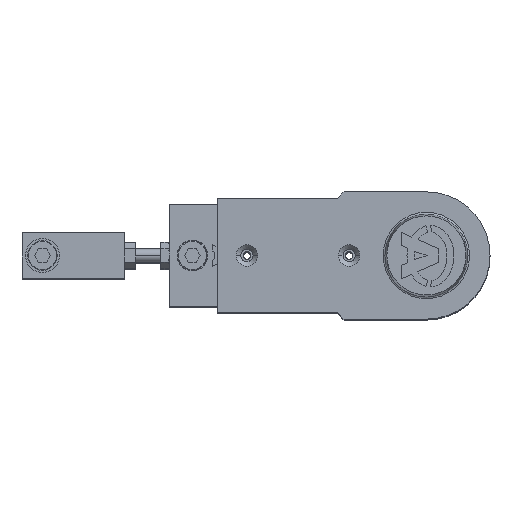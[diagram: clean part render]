
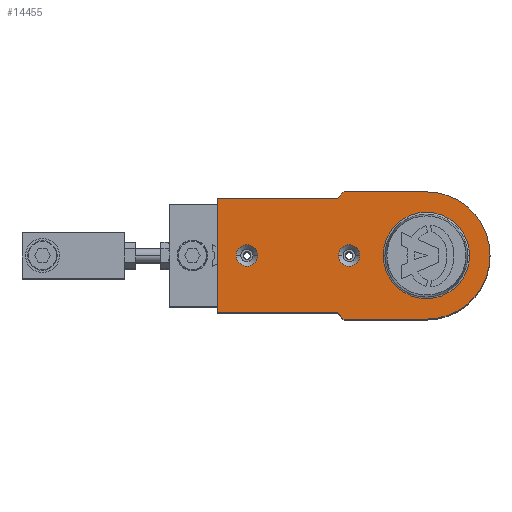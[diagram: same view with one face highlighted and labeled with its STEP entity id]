
A CAD part, top view. The second image highlights one B-rep face of the part: STEP entity #14455.
In plain terms, the highlighted planar face has unit normal (0, 0, 1).
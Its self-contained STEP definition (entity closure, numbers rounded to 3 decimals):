
#49 = EDGE_CURVE ( 'NONE', #13234, #2147, #8623, .T. ) ;
#344 = DIRECTION ( 'NONE',  ( 0., 0., 1. ) ) ;
#418 = CARTESIAN_POINT ( 'NONE',  ( 18.996, 0., 37. ) ) ;
#620 = CIRCLE ( 'NONE', #8351, 4.7 ) ;
#680 = CARTESIAN_POINT ( 'NONE',  ( 36.25, -28., 37. ) ) ;
#1122 = EDGE_CURVE ( 'NONE', #7246, #7499, #9316, .T. ) ;
#1144 = EDGE_CURVE ( 'NONE', #3367, #11006, #10732, .T. ) ;
#1190 = CARTESIAN_POINT ( 'NONE',  ( 0., -28., 37. ) ) ;
#1344 = CARTESIAN_POINT ( 'NONE',  ( 34., 0., 37. ) ) ;
#1523 = CARTESIAN_POINT ( 'NONE',  ( 36.25, -28., 37. ) ) ;
#1532 = EDGE_CURVE ( 'NONE', #9165, #14173, #13350, .T. ) ;
#1966 = CARTESIAN_POINT ( 'NONE',  ( 39., 25.25, 37. ) ) ;
#2147 = VERTEX_POINT ( 'NONE', #11191 ) ;
#2322 = EDGE_CURVE ( 'NONE', #10724, #10461, #4852, .T. ) ;
#2416 = EDGE_CURVE ( 'NONE', #7499, #11318, #9833, .T. ) ;
#2421 = DIRECTION ( 'NONE',  ( 1., 0., 0. ) ) ;
#2723 = CARTESIAN_POINT ( 'NONE',  ( 38.7, 0., 37. ) ) ;
#3316 = DIRECTION ( 'NONE',  ( 0., 0., 1. ) ) ;
#3367 = VERTEX_POINT ( 'NONE', #1190 ) ;
#3583 = CARTESIAN_POINT ( 'NONE',  ( 0., 28., 37. ) ) ;
#3642 = CARTESIAN_POINT ( 'NONE',  ( 0., -28., 37. ) ) ;
#3651 = DIRECTION ( 'NONE',  ( 0., 0., -1. ) ) ;
#3806 = EDGE_CURVE ( 'NONE', #11318, #9165, #8999, .T. ) ;
#3957 = CARTESIAN_POINT ( 'NONE',  ( 79., 0., 37. ) ) ;
#4009 = VECTOR ( 'NONE', #11042, 1000. ) ;
#4171 = CARTESIAN_POINT ( 'NONE',  ( 92., 25.25, 37. ) ) ;
#4197 = CARTESIAN_POINT ( 'NONE',  ( -28., 0., 37. ) ) ;
#4336 = CARTESIAN_POINT ( 'NONE',  ( 0., 0., 37. ) ) ;
#4462 = EDGE_CURVE ( 'NONE', #14173, #3367, #9151, .T. ) ;
#4511 = CIRCLE ( 'NONE', #13421, 18.996 ) ;
#4616 = ORIENTED_EDGE ( 'NONE', *, *, #8360, .T. ) ;
#4630 = DIRECTION ( 'NONE',  ( -1., 0., 0. ) ) ;
#4650 = ORIENTED_EDGE ( 'NONE', *, *, #12820, .F. ) ;
#4746 = CARTESIAN_POINT ( 'NONE',  ( 0., 0., 37. ) ) ;
#4852 = CIRCLE ( 'NONE', #8645, 4.7 ) ;
#4871 = DIRECTION ( 'NONE',  ( 0., 0., 1. ) ) ;
#4978 = DIRECTION ( 'NONE',  ( 0., 1., 0. ) ) ;
#6060 = ORIENTED_EDGE ( 'NONE', *, *, #7978, .T. ) ;
#6152 = VERTEX_POINT ( 'NONE', #6197 ) ;
#6197 = CARTESIAN_POINT ( 'NONE',  ( -18.996, 0., 37. ) ) ;
#6277 = DIRECTION ( 'NONE',  ( 1., 0., 0. ) ) ;
#6292 = ORIENTED_EDGE ( 'NONE', *, *, #3806, .T. ) ;
#6314 = VECTOR ( 'NONE', #4978, 1000. ) ;
#6630 = ORIENTED_EDGE ( 'NONE', *, *, #1122, .T. ) ;
#6664 = CARTESIAN_POINT ( 'NONE',  ( 0., 28., 37. ) ) ;
#6787 = ORIENTED_EDGE ( 'NONE', *, *, #2416, .T. ) ;
#6845 = ORIENTED_EDGE ( 'NONE', *, *, #4462, .T. ) ;
#6885 = EDGE_LOOP ( 'NONE', ( #4650, #11424 ) ) ;
#6949 = CARTESIAN_POINT ( 'NONE',  ( 74.3, 0., 37. ) ) ;
#6963 = DIRECTION ( 'NONE',  ( 1., 0., 0. ) ) ;
#7067 = DIRECTION ( 'NONE',  ( 1., 0., 0. ) ) ;
#7143 = DIRECTION ( 'NONE',  ( 0., 0., 1. ) ) ;
#7187 = CARTESIAN_POINT ( 'NONE',  ( 79., 0., 37. ) ) ;
#7246 = VERTEX_POINT ( 'NONE', #4171 ) ;
#7292 = CARTESIAN_POINT ( 'NONE',  ( 36.25, 28., 37. ) ) ;
#7335 = FACE_BOUND ( 'NONE', #6885, .T. ) ;
#7498 = LINE ( 'NONE', #1523, #8738 ) ;
#7499 = VERTEX_POINT ( 'NONE', #13722 ) ;
#7561 = DIRECTION ( 'NONE',  ( 0., 0., 1. ) ) ;
#7609 = DIRECTION ( 'NONE',  ( 1., 0., 0. ) ) ;
#7717 = VECTOR ( 'NONE', #9342, 1000. ) ;
#7830 = ORIENTED_EDGE ( 'NONE', *, *, #1532, .T. ) ;
#7978 = EDGE_CURVE ( 'NONE', #9906, #6152, #13662, .T. ) ;
#8246 = LINE ( 'NONE', #10568, #6314 ) ;
#8351 = AXIS2_PLACEMENT_3D ( 'NONE', #1344, #4871, #7067 ) ;
#8360 = EDGE_CURVE ( 'NONE', #11006, #13234, #7498, .T. ) ;
#8478 = AXIS2_PLACEMENT_3D ( 'NONE', #3957, #12879, #6277 ) ;
#8623 = LINE ( 'NONE', #12878, #10195 ) ;
#8645 = AXIS2_PLACEMENT_3D ( 'NONE', #7187, #10389, #9261 ) ;
#8670 = ORIENTED_EDGE ( 'NONE', *, *, #8971, .F. ) ;
#8738 = VECTOR ( 'NONE', #9575, 1000. ) ;
#8971 = EDGE_CURVE ( 'NONE', #10461, #10724, #11004, .T. ) ;
#8999 = LINE ( 'NONE', #6664, #12344 ) ;
#9042 = AXIS2_PLACEMENT_3D ( 'NONE', #4746, #7143, #11675 ) ;
#9151 = CIRCLE ( 'NONE', #9042, 28. ) ;
#9165 = VERTEX_POINT ( 'NONE', #3583 ) ;
#9261 = DIRECTION ( 'NONE',  ( 1., 0., 0. ) ) ;
#9316 = LINE ( 'NONE', #1966, #4009 ) ;
#9329 = CARTESIAN_POINT ( 'NONE',  ( 0., 0., 37. ) ) ;
#9342 = DIRECTION ( 'NONE',  ( 1., 0., 0. ) ) ;
#9413 = ORIENTED_EDGE ( 'NONE', *, *, #13753, .T. ) ;
#9512 = ORIENTED_EDGE ( 'NONE', *, *, #12801, .T. ) ;
#9575 = DIRECTION ( 'NONE',  ( 0.707, 0.707, 0. ) ) ;
#9611 = AXIS2_PLACEMENT_3D ( 'NONE', #9329, #344, #6963 ) ;
#9833 = LINE ( 'NONE', #7292, #12100 ) ;
#9901 = ORIENTED_EDGE ( 'NONE', *, *, #1144, .T. ) ;
#9906 = VERTEX_POINT ( 'NONE', #418 ) ;
#10055 = EDGE_LOOP ( 'NONE', ( #6787, #6292, #7830, #6845, #9901, #4616, #12149, #9512, #6630 ) ) ;
#10095 = AXIS2_PLACEMENT_3D ( 'NONE', #4336, #11154, #2421 ) ;
#10195 = VECTOR ( 'NONE', #12730, 1000. ) ;
#10251 = DIRECTION ( 'NONE',  ( 1., 0., 0. ) ) ;
#10389 = DIRECTION ( 'NONE',  ( 0., 0., 1. ) ) ;
#10461 = VERTEX_POINT ( 'NONE', #11986 ) ;
#10497 = FACE_BOUND ( 'NONE', #12494, .T. ) ;
#10568 = CARTESIAN_POINT ( 'NONE',  ( 92., 25.25, 37. ) ) ;
#10724 = VERTEX_POINT ( 'NONE', #6949 ) ;
#10732 = LINE ( 'NONE', #3642, #7717 ) ;
#11004 = CIRCLE ( 'NONE', #8478, 4.7 ) ;
#11006 = VERTEX_POINT ( 'NONE', #680 ) ;
#11042 = DIRECTION ( 'NONE',  ( -1., 0., 0. ) ) ;
#11154 = DIRECTION ( 'NONE',  ( 0., 0., -1. ) ) ;
#11191 = CARTESIAN_POINT ( 'NONE',  ( 92., -25.25, 37. ) ) ;
#11318 = VERTEX_POINT ( 'NONE', #12666 ) ;
#11424 = ORIENTED_EDGE ( 'NONE', *, *, #12444, .F. ) ;
#11529 = CARTESIAN_POINT ( 'NONE',  ( 29.3, 0., 37. ) ) ;
#11675 = DIRECTION ( 'NONE',  ( 1., 0., 0. ) ) ;
#11768 = DIRECTION ( 'NONE',  ( -0.707, 0.707, 0. ) ) ;
#11942 = AXIS2_PLACEMENT_3D ( 'NONE', #14377, #7561, #7609 ) ;
#11986 = CARTESIAN_POINT ( 'NONE',  ( 83.7, 0., 37. ) ) ;
#12042 = CIRCLE ( 'NONE', #11942, 4.7 ) ;
#12100 = VECTOR ( 'NONE', #11768, 1000. ) ;
#12149 = ORIENTED_EDGE ( 'NONE', *, *, #49, .T. ) ;
#12344 = VECTOR ( 'NONE', #4630, 1000. ) ;
#12444 = EDGE_CURVE ( 'NONE', #13285, #13088, #12042, .T. ) ;
#12494 = EDGE_LOOP ( 'NONE', ( #6060, #9413 ) ) ;
#12632 = CARTESIAN_POINT ( 'NONE',  ( 0., 0., 37. ) ) ;
#12642 = CARTESIAN_POINT ( 'NONE',  ( 39., -25.25, 37. ) ) ;
#12666 = CARTESIAN_POINT ( 'NONE',  ( 36.25, 28., 37. ) ) ;
#12730 = DIRECTION ( 'NONE',  ( 1., 0., 0. ) ) ;
#12801 = EDGE_CURVE ( 'NONE', #2147, #7246, #8246, .T. ) ;
#12820 = EDGE_CURVE ( 'NONE', #13088, #13285, #620, .T. ) ;
#12878 = CARTESIAN_POINT ( 'NONE',  ( 92., -25.25, 37. ) ) ;
#12879 = DIRECTION ( 'NONE',  ( 0., 0., 1. ) ) ;
#12980 = FACE_BOUND ( 'NONE', #13183, .T. ) ;
#13012 = ORIENTED_EDGE ( 'NONE', *, *, #2322, .F. ) ;
#13082 = CARTESIAN_POINT ( 'NONE',  ( 0., 0., 37. ) ) ;
#13088 = VERTEX_POINT ( 'NONE', #2723 ) ;
#13183 = EDGE_LOOP ( 'NONE', ( #8670, #13012 ) ) ;
#13234 = VERTEX_POINT ( 'NONE', #12642 ) ;
#13285 = VERTEX_POINT ( 'NONE', #11529 ) ;
#13350 = CIRCLE ( 'NONE', #14457, 28. ) ;
#13421 = AXIS2_PLACEMENT_3D ( 'NONE', #12632, #3651, #13716 ) ;
#13662 = CIRCLE ( 'NONE', #10095, 18.996 ) ;
#13716 = DIRECTION ( 'NONE',  ( 1., 0., 0. ) ) ;
#13722 = CARTESIAN_POINT ( 'NONE',  ( 39., 25.25, 37. ) ) ;
#13753 = EDGE_CURVE ( 'NONE', #6152, #9906, #4511, .T. ) ;
#13909 = PLANE ( 'NONE',  #9611 ) ;
#14173 = VERTEX_POINT ( 'NONE', #4197 ) ;
#14377 = CARTESIAN_POINT ( 'NONE',  ( 34., 0., 37. ) ) ;
#14396 = FACE_OUTER_BOUND ( 'NONE', #10055, .T. ) ;
#14455 = ADVANCED_FACE ( 'NONE', ( #10497, #7335, #12980, #14396 ), #13909, .T. ) ;
#14457 = AXIS2_PLACEMENT_3D ( 'NONE', #13082, #3316, #10251 ) ;
